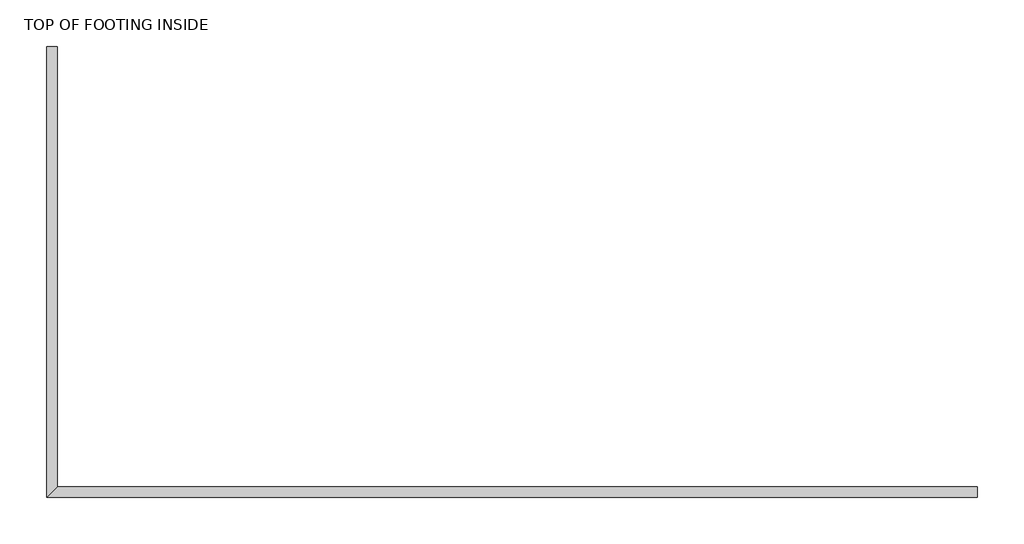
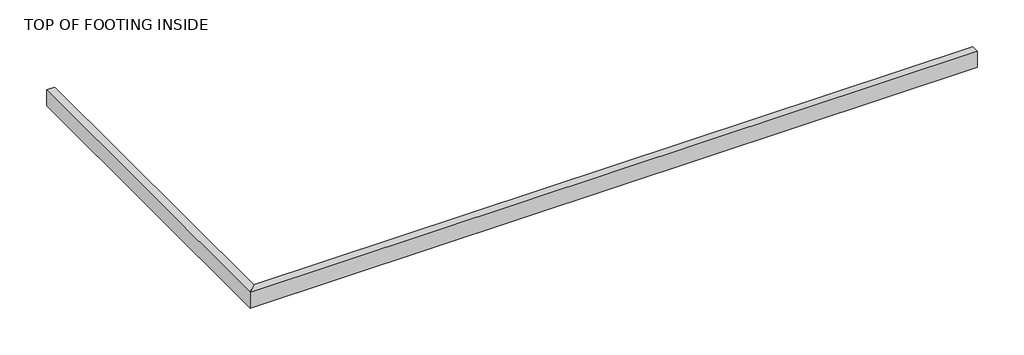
# One storey: 2 proxies.
"""IFC4 building model written with IfcOpenShell, lengths in millimetres."""

from ifc_helpers import new_model, si_unit, frame, origin, place, context, project, spatial, polyline, outline, extrude, element, save

model = new_model("IFC4")

# Units and contexts
model_context = context("Model", 3, world=origin())
ifc_project = project(units=[si_unit("LENGTHUNIT", "METRE", prefix="MILLI")], contexts=[model_context])

# Site, building, storey
site = spatial("IfcSite", under=ifc_project)
building = spatial("IfcBuilding", under=site)
storey = spatial("IfcBuildingStorey", under=building, Name="TOP OF FOOTING INSIDE", Elevation=30276.8)

# Proxies
placement = place(None, origin())
element("IfcBuildingElementProxy", 1, Name="Reveals", at=placement, inside=storey, context=model_context, shape_type="SweptSolid", body=[
    extrude(outline(polyline([(13278.8045393, -11686.1804995), (13177.2045393, -11787.7804995), (13177.2045393, -7501.5304995), (13278.8045393, -7501.5304995), (13278.8045393, -11686.1804995)])), frame((0.0, 0.0, 30276.8), z_axis=(0.0, 0.0, 1.0), x_axis=(1.0, 0.0, 0.0)), (0.0, 0.0, 1.0), 203.2),
])
element("IfcBuildingElementProxy", 2, Name="Reveals", at=placement, inside=storey, context=model_context, shape_type="SweptSolid", body=[
    extrude(outline(polyline([(22019.578935, -11686.1804995), (22019.578935, -11787.7804995), (13177.2045393, -11787.7804995), (13278.8045393, -11686.1804995), (22019.578935, -11686.1804995)])), frame((0.0, 0.0, 30276.8), z_axis=(0.0, 0.0, 1.0), x_axis=(1.0, 0.0, 0.0)), (0.0, 0.0, 1.0), 203.2),
])

save(model, "model.ifc")
